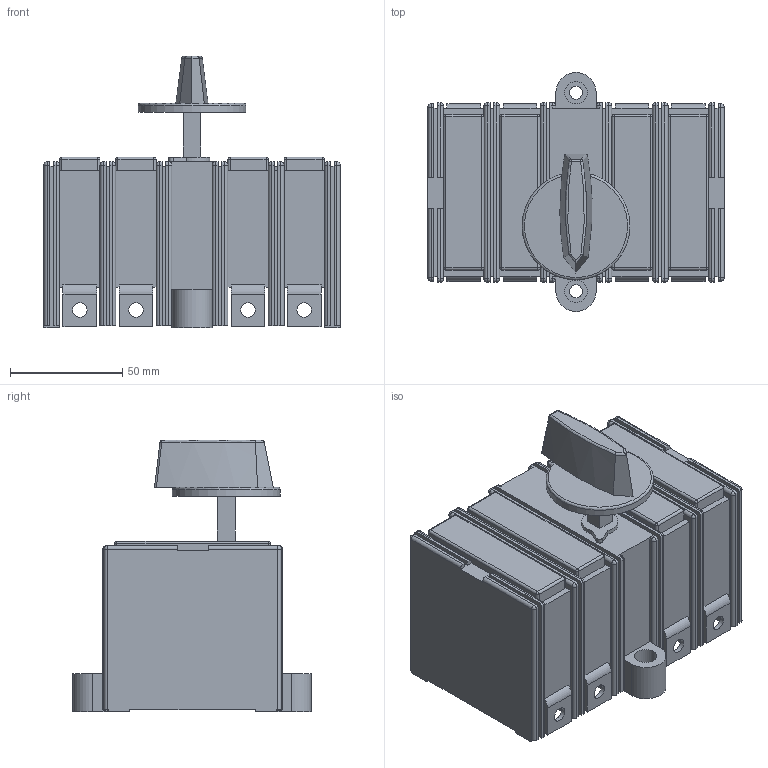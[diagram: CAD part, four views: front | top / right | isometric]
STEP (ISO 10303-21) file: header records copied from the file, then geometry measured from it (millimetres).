
FILE_DESCRIPTION(/* description */ (''),/* implementation_level */ '2;1');
FILE_NAME(/* name */ 'RA100 P3 NC-R, RA100 P4 C-R.stp',/* time_stamp */ '2021-08-17T14:42:00+02:00',/* author */ (''),/* organization */ (''),/* preprocessor_version */ 'ST-DEVELOPER v18.1',/* originating_system */ 'SIEMENS PLM Software NX 1965',/* authorisation */ '');
FILE_SCHEMA (('FEATURE_BASED_PROCESS_PLANNING'));
Length unit declared in the file: millimetre
Products named in the file (1): RA100 P3 NC-R, RA100 P4 C-R_stp
Bounding box: 132 x 106.51 x 121 mm (x, y, z)
Volume: 677340.4 mm3; surface area: 84068 mm2
Topology: 1 solids, 1 shells, 410 faces, 1102 edges, 657 vertices
Faces by surface type: plane 227, cylinder 134, sphere 41, bspline 7, torus 1
Full cylindrical faces by diameter (mm): 5.8 x2, 6.5 x8, 10 x2, 48 x1
Entity records: 12440 total; most frequent: CARTESIAN_POINT 2346, DIRECTION 2102, ORIENTED_EDGE 2084, EDGE_CURVE 1042, LINE 752, VECTOR 752, AXIS2_PLACEMENT_3D 675, VERTEX_POINT 653
